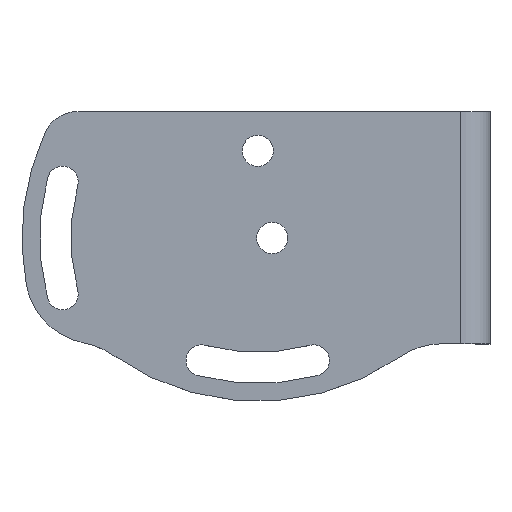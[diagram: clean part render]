
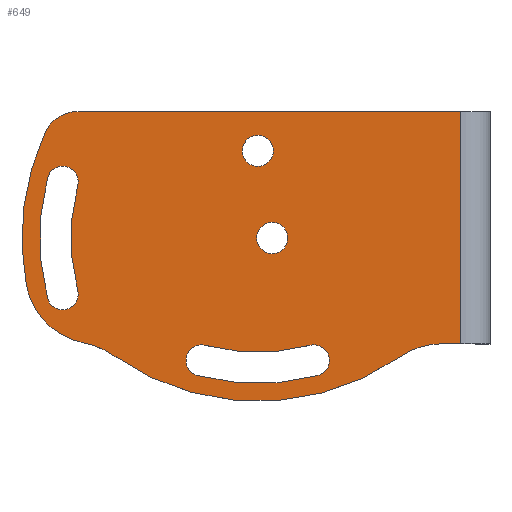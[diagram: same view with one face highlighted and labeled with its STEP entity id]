
A CAD part, top view. The second image highlights one B-rep face of the part: STEP entity #649.
In plain terms, the highlighted planar face has unit normal (0, 0, 1).
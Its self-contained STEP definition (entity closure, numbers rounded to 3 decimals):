
#15=FACE_BOUND('',#76,.T.);
#16=FACE_BOUND('',#77,.T.);
#17=FACE_BOUND('',#78,.T.);
#18=FACE_BOUND('',#79,.T.);
#29=PLANE('',#690);
#40=FACE_OUTER_BOUND('',#75,.T.);
#75=EDGE_LOOP('',(#435,#436,#437,#438,#439,#440,#441,#442,#443));
#76=EDGE_LOOP('',(#444,#445,#446,#447));
#77=EDGE_LOOP('',(#448));
#78=EDGE_LOOP('',(#449,#450,#451,#452));
#79=EDGE_LOOP('',(#453));
#125=LINE('',#1016,#170);
#126=LINE('',#1018,#171);
#127=LINE('',#1020,#172);
#170=VECTOR('',#796,2.653);
#171=VECTOR('',#797,32.);
#172=VECTOR('',#798,52.756);
#213=CIRCLE('',#686,10.);
#214=CIRCLE('',#688,34.5);
#216=CIRCLE('',#691,10.);
#217=CIRCLE('',#692,34.5);
#218=CIRCLE('',#693,10.);
#219=CIRCLE('',#694,5.);
#220=CIRCLE('',#695,2.15);
#221=CIRCLE('',#696,32.05);
#222=CIRCLE('',#697,2.15);
#223=CIRCLE('',#698,27.75);
#224=CIRCLE('',#699,2.15);
#225=CIRCLE('',#700,32.05);
#226=CIRCLE('',#701,2.15);
#227=CIRCLE('',#702,27.75);
#228=CIRCLE('',#703,2.15);
#229=CIRCLE('',#704,2.15);
#266=VERTEX_POINT('',#997);
#267=VERTEX_POINT('',#999);
#268=VERTEX_POINT('',#1003);
#270=VERTEX_POINT('',#1009);
#271=VERTEX_POINT('',#1011);
#272=VERTEX_POINT('',#1013);
#273=VERTEX_POINT('',#1015);
#274=VERTEX_POINT('',#1017);
#275=VERTEX_POINT('',#1019);
#276=VERTEX_POINT('',#1022);
#277=VERTEX_POINT('',#1023);
#278=VERTEX_POINT('',#1025);
#279=VERTEX_POINT('',#1027);
#280=VERTEX_POINT('',#1030);
#281=VERTEX_POINT('',#1032);
#282=VERTEX_POINT('',#1033);
#283=VERTEX_POINT('',#1035);
#284=VERTEX_POINT('',#1037);
#285=VERTEX_POINT('',#1040);
#332=EDGE_CURVE('',#266,#267,#213,.T.);
#334=EDGE_CURVE('',#267,#268,#214,.T.);
#337=EDGE_CURVE('',#270,#266,#216,.T.);
#338=EDGE_CURVE('',#270,#271,#217,.T.);
#339=EDGE_CURVE('',#272,#271,#218,.T.);
#340=EDGE_CURVE('',#272,#273,#125,.T.);
#341=EDGE_CURVE('',#274,#273,#126,.T.);
#342=EDGE_CURVE('',#274,#275,#127,.T.);
#343=EDGE_CURVE('',#268,#275,#219,.T.);
#344=EDGE_CURVE('',#276,#277,#220,.T.);
#345=EDGE_CURVE('',#277,#278,#221,.T.);
#346=EDGE_CURVE('',#278,#279,#222,.T.);
#347=EDGE_CURVE('',#279,#276,#223,.T.);
#348=EDGE_CURVE('',#280,#280,#224,.T.);
#349=EDGE_CURVE('',#281,#282,#225,.T.);
#350=EDGE_CURVE('',#282,#283,#226,.T.);
#351=EDGE_CURVE('',#283,#284,#227,.T.);
#352=EDGE_CURVE('',#284,#281,#228,.T.);
#353=EDGE_CURVE('',#285,#285,#229,.T.);
#435=ORIENTED_EDGE('',*,*,#332,.F.);
#436=ORIENTED_EDGE('',*,*,#337,.F.);
#437=ORIENTED_EDGE('',*,*,#338,.T.);
#438=ORIENTED_EDGE('',*,*,#339,.F.);
#439=ORIENTED_EDGE('',*,*,#340,.T.);
#440=ORIENTED_EDGE('',*,*,#341,.F.);
#441=ORIENTED_EDGE('',*,*,#342,.T.);
#442=ORIENTED_EDGE('',*,*,#343,.F.);
#443=ORIENTED_EDGE('',*,*,#334,.F.);
#444=ORIENTED_EDGE('',*,*,#344,.T.);
#445=ORIENTED_EDGE('',*,*,#345,.T.);
#446=ORIENTED_EDGE('',*,*,#346,.T.);
#447=ORIENTED_EDGE('',*,*,#347,.T.);
#448=ORIENTED_EDGE('',*,*,#348,.T.);
#449=ORIENTED_EDGE('',*,*,#349,.T.);
#450=ORIENTED_EDGE('',*,*,#350,.T.);
#451=ORIENTED_EDGE('',*,*,#351,.T.);
#452=ORIENTED_EDGE('',*,*,#352,.T.);
#453=ORIENTED_EDGE('',*,*,#353,.T.);
#649=ADVANCED_FACE('',(#40,#15,#16,#17,#18),#29,.T.);
#686=AXIS2_PLACEMENT_3D('',#1000,#778,#779);
#688=AXIS2_PLACEMENT_3D('',#1004,#783,#784);
#690=AXIS2_PLACEMENT_3D('',#1008,#788,#789);
#691=AXIS2_PLACEMENT_3D('',#1010,#790,#791);
#692=AXIS2_PLACEMENT_3D('',#1012,#792,#793);
#693=AXIS2_PLACEMENT_3D('',#1014,#794,#795);
#694=AXIS2_PLACEMENT_3D('',#1021,#799,#800);
#695=AXIS2_PLACEMENT_3D('',#1024,#801,#802);
#696=AXIS2_PLACEMENT_3D('',#1026,#803,#804);
#697=AXIS2_PLACEMENT_3D('',#1028,#805,#806);
#698=AXIS2_PLACEMENT_3D('',#1029,#807,#808);
#699=AXIS2_PLACEMENT_3D('',#1031,#809,#810);
#700=AXIS2_PLACEMENT_3D('',#1034,#811,#812);
#701=AXIS2_PLACEMENT_3D('',#1036,#813,#814);
#702=AXIS2_PLACEMENT_3D('',#1038,#815,#816);
#703=AXIS2_PLACEMENT_3D('',#1039,#817,#818);
#704=AXIS2_PLACEMENT_3D('',#1041,#819,#820);
#778=DIRECTION('center_axis',(0.,0.,
-1.));
#779=DIRECTION('ref_axis',(0.982,0.19,0.));
#783=DIRECTION('center_axis',(0.,0.,-1.));
#784=DIRECTION('ref_axis',(-0.815,0.58,0.));
#788=DIRECTION('center_axis',(0.,0.,
1.));
#789=DIRECTION('ref_axis',(1.,0.,0.));
#790=DIRECTION('center_axis',(0.,0.,
1.));
#791=DIRECTION('ref_axis',(0.303,0.953,0.));
#792=DIRECTION('center_axis',(0.,0.,
1.));
#793=DIRECTION('ref_axis',(0.638,-0.77,0.));
#794=DIRECTION('center_axis',(0.,0.,
1.));
#795=DIRECTION('ref_axis',(-0.298,0.954,0.));
#796=DIRECTION('',(1.,0.,0.));
#797=DIRECTION('',(0.,-1.,0.));
#798=DIRECTION('',(-1.,0.,0.));
#799=DIRECTION('center_axis',(0.,0.,
-1.));
#800=DIRECTION('ref_axis',(-0.538,0.843,0.));
#801=DIRECTION('center_axis',(0.,0.,
-1.));
#802=DIRECTION('ref_axis',(-0.966,-0.259,0.));
#803=DIRECTION('center_axis',(0.,0.,
-1.));
#804=DIRECTION('ref_axis',(-0.966,0.259,0.));
#805=DIRECTION('center_axis',(0.,0.,
-1.));
#806=DIRECTION('ref_axis',(0.966,-0.259,0.));
#807=DIRECTION('center_axis',(0.,0.,
1.));
#808=DIRECTION('ref_axis',(0.966,-0.259,0.));
#809=DIRECTION('center_axis',(0.,0.,
-1.));
#810=DIRECTION('ref_axis',(-1.,0.,0.));
#811=DIRECTION('center_axis',(0.,0.,
-1.));
#812=DIRECTION('ref_axis',(-0.259,-0.966,0.));
#813=DIRECTION('center_axis',(0.,0.,
-1.));
#814=DIRECTION('ref_axis',(0.259,0.966,0.));
#815=DIRECTION('center_axis',(0.,0.,
1.));
#816=DIRECTION('ref_axis',(0.259,0.966,0.));
#817=DIRECTION('center_axis',(0.,0.,
-1.));
#818=DIRECTION('ref_axis',(0.259,-0.966,0.));
#819=DIRECTION('center_axis',(0.,0.,
-1.));
#820=DIRECTION('ref_axis',(-1.,0.,0.));
#997=CARTESIAN_POINT('',(-55.892,-31.903,0.));
#999=CARTESIAN_POINT('',(-63.873,-23.97,0.));
#1000=CARTESIAN_POINT('Origin',(-54.055,-22.073,0.));
#1003=CARTESIAN_POINT('',(-61.29,-2.895,0.));
#1004=CARTESIAN_POINT('Origin',(-30.,-17.425,0.));
#1008=CARTESIAN_POINT('Origin',(-29.772,-19.567,0.));
#1009=CARTESIAN_POINT('',(-51.947,-33.574,0.));
#1010=CARTESIAN_POINT('Origin',(-57.729,-41.733,0.));
#1011=CARTESIAN_POINT('',(-12.348,-33.781,0.));
#1012=CARTESIAN_POINT('Origin',(-32.,-5.425,0.));
#1013=CARTESIAN_POINT('',(-6.652,-32.,0.));
#1014=CARTESIAN_POINT('Origin',(-6.652,-42.,0.));
#1015=CARTESIAN_POINT('',(-4.,-32.,0.));
#1016=CARTESIAN_POINT('',(-19.886,-32.,0.));
#1017=CARTESIAN_POINT('',(-4.,0.,0.));
#1018=CARTESIAN_POINT('',(-4.,-8.496,0.));
#1019=CARTESIAN_POINT('',(-56.756,0.,0.));
#1020=CARTESIAN_POINT('',(-44.774,0.,0.));
#1021=CARTESIAN_POINT('Origin',(-56.756,-5.,0.));
#1022=CARTESIAN_POINT('',(-56.804,-24.607,0.));
#1023=CARTESIAN_POINT('',(-60.958,-25.72,0.));
#1024=CARTESIAN_POINT('Origin',(-58.881,-25.164,0.));
#1025=CARTESIAN_POINT('',(-60.958,-9.13,0.));
#1026=CARTESIAN_POINT('Origin',(-30.,-17.425,0.));
#1027=CARTESIAN_POINT('',(-56.804,-10.243,0.));
#1028=CARTESIAN_POINT('Origin',(-58.881,-9.686,0.));
#1029=CARTESIAN_POINT('Origin',(-30.,-17.425,0.));
#1030=CARTESIAN_POINT('',(-27.85,-17.425,0.));
#1031=CARTESIAN_POINT('Origin',(-30.,-17.425,0.));
#1032=CARTESIAN_POINT('',(-23.704,-36.383,0.));
#1033=CARTESIAN_POINT('',(-40.295,-36.383,0.));
#1034=CARTESIAN_POINT('Origin',(-32.,-5.425,0.));
#1035=CARTESIAN_POINT('',(-39.182,-32.23,0.));
#1036=CARTESIAN_POINT('Origin',(-39.738,-34.306,0.));
#1037=CARTESIAN_POINT('',(-24.817,-32.23,0.));
#1038=CARTESIAN_POINT('Origin',(-32.,-5.425,0.));
#1039=CARTESIAN_POINT('Origin',(-24.261,-34.306,0.));
#1040=CARTESIAN_POINT('',(-29.85,-5.425,0.));
#1041=CARTESIAN_POINT('Origin',(-32.,-5.425,0.));
